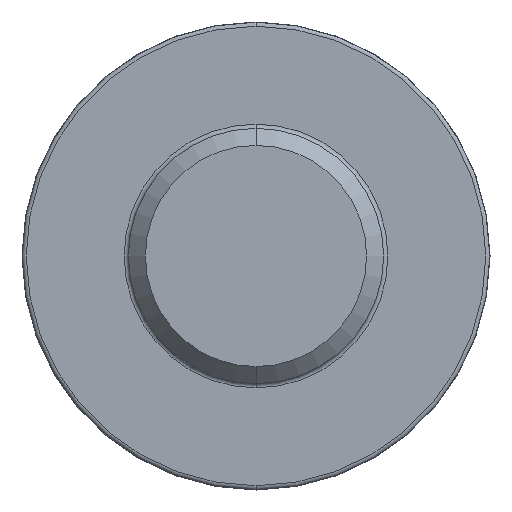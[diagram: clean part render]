
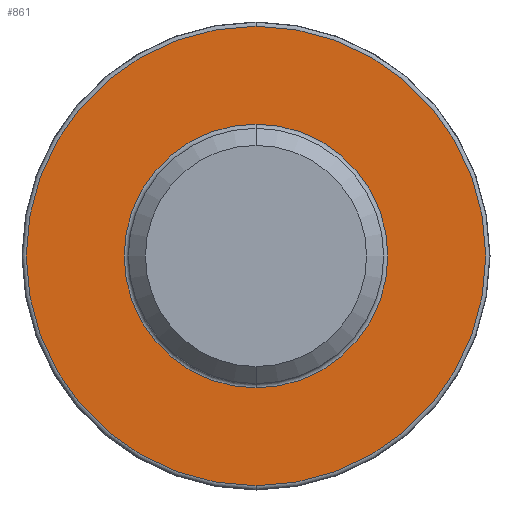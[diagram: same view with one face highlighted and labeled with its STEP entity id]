
A CAD part, front view. The second image highlights one B-rep face of the part: STEP entity #861.
In plain terms, the highlighted planar face has unit normal (0, -1, 0).
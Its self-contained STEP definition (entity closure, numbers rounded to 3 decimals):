
#4 = ORIENTED_EDGE ( 'NONE', *, *, #49, .T. ) ;
#21 = CARTESIAN_POINT ( 'NONE',  ( 0., -1.6, 2.7 ) ) ;
#45 = AXIS2_PLACEMENT_3D ( 'NONE', #127, #133, #746 ) ;
#49 = EDGE_CURVE ( 'NONE', #536, #467, #597, .T. ) ;
#75 = AXIS2_PLACEMENT_3D ( 'NONE', #715, #652, #584 ) ;
#83 = CARTESIAN_POINT ( 'NONE',  ( 0., -1.6, 1.55 ) ) ;
#87 = PLANE ( 'NONE',  #663 ) ;
#109 = AXIS2_PLACEMENT_3D ( 'NONE', #200, #660, #726 ) ;
#119 = EDGE_CURVE ( 'NONE', #819, #829, #543, .T. ) ;
#127 = CARTESIAN_POINT ( 'NONE',  ( 0., -1.6, 0. ) ) ;
#133 = DIRECTION ( 'NONE',  ( 0., -1., 0. ) ) ;
#192 = EDGE_LOOP ( 'NONE', ( #620, #855 ) ) ;
#200 = CARTESIAN_POINT ( 'NONE',  ( 0., -1.6, 0. ) ) ;
#252 = CIRCLE ( 'NONE', #777, 2.7 ) ;
#284 = DIRECTION ( 'NONE',  ( 0., 0., 1. ) ) ;
#320 = CARTESIAN_POINT ( 'NONE',  ( 0., -1.6, -2.7 ) ) ;
#352 = CARTESIAN_POINT ( 'NONE',  ( 0., -1.6, 0. ) ) ;
#355 = FACE_BOUND ( 'NONE', #192, .T. ) ;
#413 = EDGE_CURVE ( 'NONE', #467, #536, #252, .T. ) ;
#419 = CIRCLE ( 'NONE', #75, 1.55 ) ;
#467 = VERTEX_POINT ( 'NONE', #21 ) ;
#506 = CARTESIAN_POINT ( 'NONE',  ( 0., -1.6, -1.55 ) ) ;
#536 = VERTEX_POINT ( 'NONE', #320 ) ;
#543 = CIRCLE ( 'NONE', #109, 1.55 ) ;
#569 = CARTESIAN_POINT ( 'NONE',  ( 1.5, -1.6, 0. ) ) ;
#584 = DIRECTION ( 'NONE',  ( 0., 0., 1. ) ) ;
#597 = CIRCLE ( 'NONE', #45, 2.7 ) ;
#610 = EDGE_CURVE ( 'NONE', #829, #819, #419, .T. ) ;
#620 = ORIENTED_EDGE ( 'NONE', *, *, #610, .T. ) ;
#628 = EDGE_LOOP ( 'NONE', ( #692, #4 ) ) ;
#652 = DIRECTION ( 'NONE',  ( 0., 1., 0. ) ) ;
#660 = DIRECTION ( 'NONE',  ( 0., 1., 0. ) ) ;
#663 = AXIS2_PLACEMENT_3D ( 'NONE', #569, #828, #831 ) ;
#692 = ORIENTED_EDGE ( 'NONE', *, *, #413, .T. ) ;
#706 = DIRECTION ( 'NONE',  ( 0., -1., 0. ) ) ;
#715 = CARTESIAN_POINT ( 'NONE',  ( 0., -1.6, 0. ) ) ;
#726 = DIRECTION ( 'NONE',  ( 0., 0., 1. ) ) ;
#746 = DIRECTION ( 'NONE',  ( 0., 0., 1. ) ) ;
#777 = AXIS2_PLACEMENT_3D ( 'NONE', #352, #706, #284 ) ;
#818 = FACE_OUTER_BOUND ( 'NONE', #628, .T. ) ;
#819 = VERTEX_POINT ( 'NONE', #506 ) ;
#828 = DIRECTION ( 'NONE',  ( 0., 1., 0. ) ) ;
#829 = VERTEX_POINT ( 'NONE', #83 ) ;
#831 = DIRECTION ( 'NONE',  ( 0., 0., 1. ) ) ;
#855 = ORIENTED_EDGE ( 'NONE', *, *, #119, .T. ) ;
#861 = ADVANCED_FACE ( 'NONE', ( #355, #818 ), #87, .F. ) ;
